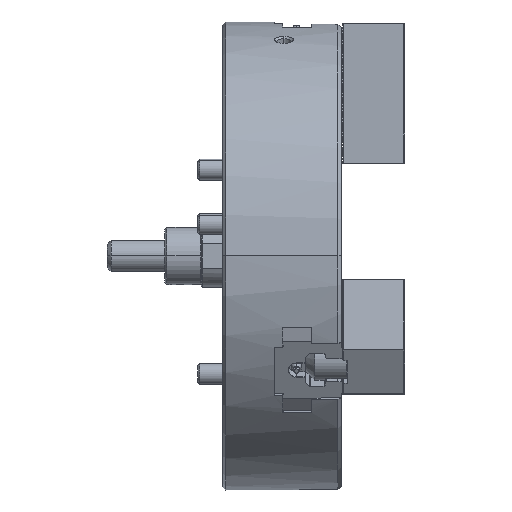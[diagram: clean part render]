
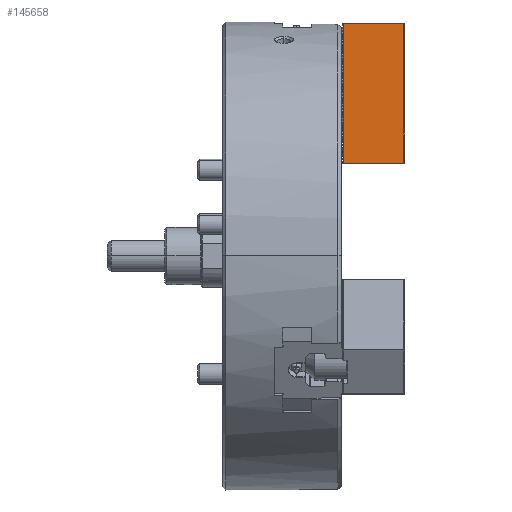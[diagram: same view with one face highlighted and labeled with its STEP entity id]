
A CAD part, top view. The second image highlights one B-rep face of the part: STEP entity #145658.
In plain terms, the highlighted planar face has unit normal (0, 0, 1).
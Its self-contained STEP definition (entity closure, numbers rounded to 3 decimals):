
#8206 = CARTESIAN_POINT ( 'NONE',  ( 1.4, 0.6, 25. ) ) ;
#9549 = VERTEX_POINT ( 'NONE', #14827 ) ;
#12440 = EDGE_CURVE ( 'NONE', #201730, #184760, #203972, .T. ) ;
#14827 = CARTESIAN_POINT ( 'NONE',  ( 1.4, 134.4, 25. ) ) ;
#16941 = EDGE_CURVE ( 'NONE', #201730, #141724, #128713, .T. ) ;
#18687 = VECTOR ( 'NONE', #100338, 1000. ) ;
#23916 = CARTESIAN_POINT ( 'NONE',  ( 60., 134.4, 25. ) ) ;
#33055 = DIRECTION ( 'NONE',  ( 0., 1., 0. ) ) ;
#54618 = CARTESIAN_POINT ( 'NONE',  ( 59.4, 0.6, 25. ) ) ;
#63124 = VECTOR ( 'NONE', #160151, 1000. ) ;
#67895 = LINE ( 'NONE', #148543, #18687 ) ;
#67924 = CARTESIAN_POINT ( 'NONE',  ( 60., 0.6, 25. ) ) ;
#72169 = DIRECTION ( 'NONE',  ( -1., 0., 0. ) ) ;
#74171 = FACE_OUTER_BOUND ( 'NONE', #205185, .T. ) ;
#87916 = ORIENTED_EDGE ( 'NONE', *, *, #12440, .T. ) ;
#90853 = CARTESIAN_POINT ( 'NONE',  ( 60., 0.6, 25. ) ) ;
#100338 = DIRECTION ( 'NONE',  ( 0., 1., 0. ) ) ;
#105565 = DIRECTION ( 'NONE',  ( 0., 1., 0. ) ) ;
#105735 = EDGE_CURVE ( 'NONE', #184760, #9549, #182206, .T. ) ;
#106600 = PLANE ( 'NONE',  #174354 ) ;
#111861 = VECTOR ( 'NONE', #72169, 1000. ) ;
#121563 = CARTESIAN_POINT ( 'NONE',  ( 59.4, 134.4, 25. ) ) ;
#125941 = VECTOR ( 'NONE', #33055, 1000. ) ;
#126211 = ORIENTED_EDGE ( 'NONE', *, *, #16941, .F. ) ;
#128713 = LINE ( 'NONE', #67924, #63124 ) ;
#138270 = EDGE_CURVE ( 'NONE', #141724, #9549, #67895, .T. ) ;
#141724 = VERTEX_POINT ( 'NONE', #8206 ) ;
#145658 = ADVANCED_FACE ( 'NONE', ( #74171 ), #106600, .F. ) ;
#148543 = CARTESIAN_POINT ( 'NONE',  ( 1.4, 0., 25. ) ) ;
#155741 = CARTESIAN_POINT ( 'NONE',  ( 59.4, 134.4, 25. ) ) ;
#160151 = DIRECTION ( 'NONE',  ( -1., 0., 0. ) ) ;
#171560 = DIRECTION ( 'NONE',  ( 0., 0., -1. ) ) ;
#174354 = AXIS2_PLACEMENT_3D ( 'NONE', #90853, #171560, #105565 ) ;
#182206 = LINE ( 'NONE', #23916, #111861 ) ;
#184760 = VERTEX_POINT ( 'NONE', #121563 ) ;
#201019 = ORIENTED_EDGE ( 'NONE', *, *, #138270, .F. ) ;
#201730 = VERTEX_POINT ( 'NONE', #54618 ) ;
#203972 = LINE ( 'NONE', #155741, #125941 ) ;
#205185 = EDGE_LOOP ( 'NONE', ( #126211, #87916, #206865, #201019 ) ) ;
#206865 = ORIENTED_EDGE ( 'NONE', *, *, #105735, .T. ) ;
